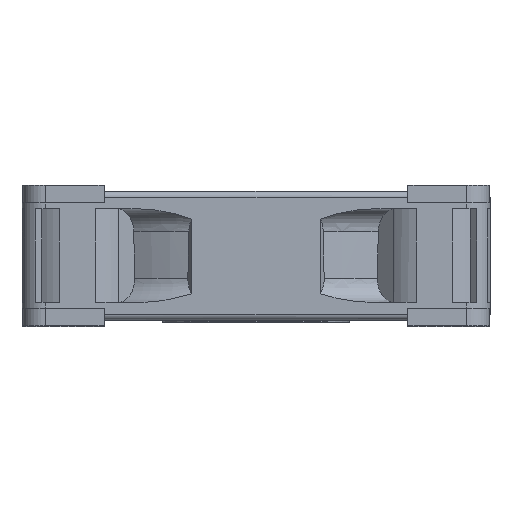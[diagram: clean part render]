
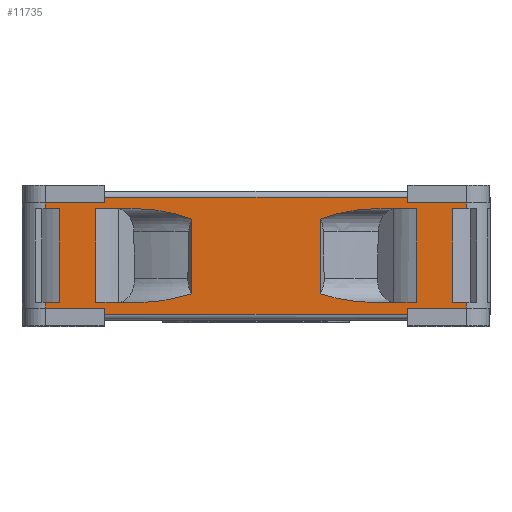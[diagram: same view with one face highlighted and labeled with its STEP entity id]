
A CAD part, top view. The second image highlights one B-rep face of the part: STEP entity #11735.
In plain terms, the highlighted planar face has unit normal (0, 0, 1).
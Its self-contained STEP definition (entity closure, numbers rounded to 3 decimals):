
#1101=LINE('',#20492,#1887);
#1107=LINE('',#20519,#1893);
#1110=LINE('',#20529,#1896);
#1112=LINE('',#20535,#1898);
#1118=LINE('',#20565,#1904);
#1124=LINE('',#20592,#1910);
#1125=LINE('',#20597,#1911);
#1127=LINE('',#20602,#1913);
#1141=LINE('',#20683,#1927);
#1143=LINE('',#20694,#1929);
#1145=LINE('',#20699,#1931);
#1207=LINE('',#21023,#1993);
#1208=LINE('',#21033,#1994);
#1211=LINE('',#21039,#1997);
#1283=LINE('',#21820,#2069);
#1288=LINE('',#21993,#2074);
#1301=LINE('',#22116,#2087);
#1302=LINE('',#22118,#2088);
#1304=LINE('',#22128,#2090);
#1305=LINE('',#22130,#2091);
#1308=LINE('',#22146,#2094);
#1310=LINE('',#22154,#2096);
#1312=LINE('',#22162,#2098);
#1313=LINE('',#22164,#2099);
#1314=LINE('',#22165,#2100);
#1315=LINE('',#22166,#2101);
#1316=LINE('',#22168,#2102);
#1317=LINE('',#22169,#2103);
#1887=VECTOR('',#14894,1000.);
#1893=VECTOR('',#14918,1000.);
#1896=VECTOR('',#14927,1000.);
#1898=VECTOR('',#14933,1000.);
#1904=VECTOR('',#14959,1000.);
#1910=VECTOR('',#14983,1000.);
#1911=VECTOR('',#14988,1000.);
#1913=VECTOR('',#14994,1000.);
#1927=VECTOR('',#15064,1000.);
#1929=VECTOR('',#15068,1000.);
#1931=VECTOR('',#15074,1000.);
#1993=VECTOR('',#15304,1000.);
#1994=VECTOR('',#15307,1000.);
#1997=VECTOR('',#15314,1000.);
#2069=VECTOR('',#15660,1000.);
#2074=VECTOR('',#15699,1000.);
#2087=VECTOR('',#15774,1000.);
#2088=VECTOR('',#15777,1000.);
#2090=VECTOR('',#15789,1000.);
#2091=VECTOR('',#15792,1000.);
#2094=VECTOR('',#15815,1000.);
#2096=VECTOR('',#15825,1000.);
#2098=VECTOR('',#15835,1000.);
#2099=VECTOR('',#15836,1000.);
#2100=VECTOR('',#15837,1000.);
#2101=VECTOR('',#15838,1000.);
#2102=VECTOR('',#15839,1000.);
#2103=VECTOR('',#15840,1000.);
#4244=ORIENTED_EDGE('',*,*,#7147,.T.);
#4245=ORIENTED_EDGE('',*,*,#7128,.T.);
#4246=ORIENTED_EDGE('',*,*,#7063,.T.);
#4247=ORIENTED_EDGE('',*,*,#7110,.T.);
#4248=ORIENTED_EDGE('',*,*,#7162,.T.);
#4249=ORIENTED_EDGE('',*,*,#7163,.T.);
#4250=ORIENTED_EDGE('',*,*,#7164,.T.);
#4251=ORIENTED_EDGE('',*,*,#7084,.T.);
#4252=ORIENTED_EDGE('',*,*,#7101,.T.);
#4253=ORIENTED_EDGE('',*,*,#7100,.T.);
#4254=ORIENTED_EDGE('',*,*,#7146,.T.);
#4255=ORIENTED_EDGE('',*,*,#7158,.F.);
#4256=ORIENTED_EDGE('',*,*,#6864,.T.);
#4257=ORIENTED_EDGE('',*,*,#6673,.F.);
#4258=ORIENTED_EDGE('',*,*,#6689,.F.);
#4259=ORIENTED_EDGE('',*,*,#7140,.T.);
#4260=ORIENTED_EDGE('',*,*,#7165,.F.);
#4261=ORIENTED_EDGE('',*,*,#7166,.T.);
#4262=ORIENTED_EDGE('',*,*,#6686,.F.);
#4263=ORIENTED_EDGE('',*,*,#6692,.T.);
#4264=ORIENTED_EDGE('',*,*,#6727,.T.);
#4265=ORIENTED_EDGE('',*,*,#6730,.F.);
#4266=ORIENTED_EDGE('',*,*,#6733,.F.);
#4267=ORIENTED_EDGE('',*,*,#6659,.F.);
#4268=ORIENTED_EDGE('',*,*,#6650,.T.);
#4269=ORIENTED_EDGE('',*,*,#7167,.T.);
#4270=ORIENTED_EDGE('',*,*,#7154,.T.);
#4271=ORIENTED_EDGE('',*,*,#7141,.T.);
#4272=ORIENTED_EDGE('',*,*,#6656,.T.);
#4273=ORIENTED_EDGE('',*,*,#6637,.T.);
#4274=ORIENTED_EDGE('',*,*,#6858,.F.);
#4275=ORIENTED_EDGE('',*,*,#6860,.F.);
#6637=EDGE_CURVE('',#8341,#8340,#1101,.T.);
#6650=EDGE_CURVE('',#8353,#8352,#1107,.T.);
#6656=EDGE_CURVE('',#8357,#8341,#1110,.T.);
#6659=EDGE_CURVE('',#8353,#8359,#1112,.T.);
#6673=EDGE_CURVE('',#8372,#8373,#1118,.T.);
#6686=EDGE_CURVE('',#8384,#8385,#1124,.T.);
#6689=EDGE_CURVE('',#8386,#8372,#1125,.T.);
#6692=EDGE_CURVE('',#8384,#8388,#1127,.T.);
#6727=EDGE_CURVE('',#8388,#8412,#1141,.T.);
#6730=EDGE_CURVE('',#8414,#8412,#1143,.T.);
#6733=EDGE_CURVE('',#8359,#8414,#1145,.T.);
#6858=EDGE_CURVE('',#8500,#8340,#1207,.T.);
#6860=EDGE_CURVE('',#8502,#8500,#1208,.T.);
#6864=EDGE_CURVE('',#8502,#8373,#1211,.T.);
#7063=EDGE_CURVE('',#8616,#8617,#1283,.T.);
#7084=EDGE_CURVE('',#8636,#8634,#9472,.T.);
#7100=EDGE_CURVE('',#8645,#8647,#9480,.T.);
#7101=EDGE_CURVE('',#8634,#8645,#1288,.T.);
#7110=EDGE_CURVE('',#8617,#8651,#9484,.T.);
#7128=EDGE_CURVE('',#8661,#8616,#9490,.T.);
#7140=EDGE_CURVE('',#8386,#8666,#1301,.T.);
#7141=EDGE_CURVE('',#8667,#8357,#1302,.T.);
#7146=EDGE_CURVE('',#8647,#8669,#1304,.T.);
#7147=EDGE_CURVE('',#8670,#8661,#1305,.T.);
#7154=EDGE_CURVE('',#8673,#8667,#1308,.T.);
#7158=EDGE_CURVE('',#8675,#8669,#1310,.T.);
#7162=EDGE_CURVE('',#8651,#8677,#1312,.T.);
#7163=EDGE_CURVE('',#8677,#8670,#1313,.T.);
#7164=EDGE_CURVE('',#8675,#8636,#1314,.T.);
#7165=EDGE_CURVE('',#8678,#8666,#1315,.T.);
#7166=EDGE_CURVE('',#8678,#8385,#1316,.T.);
#7167=EDGE_CURVE('',#8352,#8673,#1317,.T.);
#8340=VERTEX_POINT('',#20491);
#8341=VERTEX_POINT('',#20493);
#8352=VERTEX_POINT('',#20518);
#8353=VERTEX_POINT('',#20520);
#8357=VERTEX_POINT('',#20530);
#8359=VERTEX_POINT('',#20536);
#8372=VERTEX_POINT('',#20564);
#8373=VERTEX_POINT('',#20566);
#8384=VERTEX_POINT('',#20591);
#8385=VERTEX_POINT('',#20593);
#8386=VERTEX_POINT('',#20596);
#8388=VERTEX_POINT('',#20603);
#8412=VERTEX_POINT('',#20682);
#8414=VERTEX_POINT('',#20693);
#8500=VERTEX_POINT('',#21022);
#8502=VERTEX_POINT('',#21032);
#8616=VERTEX_POINT('',#21821);
#8617=VERTEX_POINT('',#21822);
#8634=VERTEX_POINT('',#21920);
#8636=VERTEX_POINT('',#21926);
#8645=VERTEX_POINT('',#21976);
#8647=VERTEX_POINT('',#21984);
#8651=VERTEX_POINT('',#22023);
#8661=VERTEX_POINT('',#22085);
#8666=VERTEX_POINT('',#22115);
#8667=VERTEX_POINT('',#22119);
#8669=VERTEX_POINT('',#22127);
#8670=VERTEX_POINT('',#22131);
#8673=VERTEX_POINT('',#22147);
#8675=VERTEX_POINT('',#22155);
#8677=VERTEX_POINT('',#22163);
#8678=VERTEX_POINT('',#22167);
#9472=B_SPLINE_CURVE_WITH_KNOTS('',3,(#21922,#21923,#21924,#21925),
 .UNSPECIFIED.,.F.,.F.,(4,4),(0.,1.),.UNSPECIFIED.);
#9480=B_SPLINE_CURVE_WITH_KNOTS('',3,(#21985,#21986,#21987,#21988,#21989,
#21990,#21991),.UNSPECIFIED.,.F.,.F.,(4,1,1,1,4),(0.,0.25,0.5,0.75,1.),
 .UNSPECIFIED.);
#9484=B_SPLINE_CURVE_WITH_KNOTS('',3,(#22024,#22025,#22026,#22027),
 .UNSPECIFIED.,.F.,.F.,(4,4),(0.,1.),.UNSPECIFIED.);
#9490=B_SPLINE_CURVE_WITH_KNOTS('',3,(#22078,#22079,#22080,#22081,#22082,
#22083,#22084),.UNSPECIFIED.,.F.,.F.,(4,1,1,1,4),(0.,0.25,0.5,0.75,1.),
 .UNSPECIFIED.);
#10103=EDGE_LOOP('',(#4244,#4245,#4246,#4247,#4248,#4249));
#10104=EDGE_LOOP('',(#4250,#4251,#4252,#4253,#4254,#4255));
#10105=EDGE_LOOP('',(#4256,#4257,#4258,#4259,#4260,#4261,#4262,#4263,#4264,
#4265,#4266,#4267,#4268,#4269,#4270,#4271,#4272,#4273,#4274,#4275));
#10807=FACE_BOUND('',#10103,.T.);
#10808=FACE_BOUND('',#10104,.T.);
#10809=FACE_BOUND('',#10105,.T.);
#11298=PLANE('',#13809);
#11735=ADVANCED_FACE('',(#10807,#10808,#10809),#11298,.F.);
#13809=AXIS2_PLACEMENT_3D('',#22161,#15833,#15834);
#14894=DIRECTION('',(-1.,0.,0.));
#14918=DIRECTION('',(0.,1.,0.));
#14927=DIRECTION('',(0.,1.,0.));
#14933=DIRECTION('',(-1.,0.,0.));
#14959=DIRECTION('',(1.,0.,0.));
#14983=DIRECTION('',(0.,1.,0.));
#14988=DIRECTION('',(0.,1.,0.));
#14994=DIRECTION('',(1.,0.,0.));
#15064=DIRECTION('',(0.,-1.,0.));
#15068=DIRECTION('',(-1.,0.,0.));
#15074=DIRECTION('',(0.,-1.,0.));
#15304=DIRECTION('',(0.,-1.,0.));
#15307=DIRECTION('',(1.,0.,0.));
#15314=DIRECTION('',(0.,-1.,0.));
#15660=DIRECTION('',(0.,-1.,0.));
#15699=DIRECTION('',(0.,1.,0.));
#15774=DIRECTION('',(1.,0.,0.));
#15777=DIRECTION('',(1.,0.,0.));
#15789=DIRECTION('',(1.,0.,0.));
#15792=DIRECTION('',(1.,0.,0.));
#15815=DIRECTION('',(0.,1.,0.));
#15825=DIRECTION('',(0.,1.,0.));
#15833=DIRECTION('',(0.,0.,-1.));
#15834=DIRECTION('',(-1.,0.,0.));
#15835=DIRECTION('',(-1.,0.,0.));
#15836=DIRECTION('',(0.,1.,0.));
#15837=DIRECTION('',(-1.,0.,0.));
#15838=DIRECTION('',(0.,1.,0.));
#15839=DIRECTION('',(-1.,0.,0.));
#15840=DIRECTION('',(-1.,0.,0.));
#20491=CARTESIAN_POINT('',(12.941,10.,20.));
#20492=CARTESIAN_POINT('',(18.,10.,20.));
#20493=CARTESIAN_POINT('',(18.,10.,20.));
#20518=CARTESIAN_POINT('',(18.,1.5,20.));
#20519=CARTESIAN_POINT('',(18.,1.,20.));
#20520=CARTESIAN_POINT('',(18.,1.,20.));
#20529=CARTESIAN_POINT('',(18.,9.5,20.));
#20530=CARTESIAN_POINT('',(18.,9.5,20.));
#20535=CARTESIAN_POINT('',(18.,1.,20.));
#20536=CARTESIAN_POINT('',(12.941,1.,20.));
#20564=CARTESIAN_POINT('',(-18.,10.,20.));
#20565=CARTESIAN_POINT('',(-18.,10.,20.));
#20566=CARTESIAN_POINT('',(-12.941,10.,20.));
#20591=CARTESIAN_POINT('',(-18.,1.,20.));
#20592=CARTESIAN_POINT('',(-18.,1.,20.));
#20593=CARTESIAN_POINT('',(-18.,1.5,20.));
#20596=CARTESIAN_POINT('',(-18.,9.5,20.));
#20597=CARTESIAN_POINT('',(-18.,9.5,20.));
#20602=CARTESIAN_POINT('',(-18.,1.,20.));
#20603=CARTESIAN_POINT('',(-12.941,1.,20.));
#20682=CARTESIAN_POINT('',(-12.941,0.5,20.));
#20683=CARTESIAN_POINT('',(-12.941,1.,20.));
#20693=CARTESIAN_POINT('',(12.941,0.5,20.));
#20694=CARTESIAN_POINT('',(12.941,0.5,20.));
#20699=CARTESIAN_POINT('',(12.941,1.,20.));
#21022=CARTESIAN_POINT('',(12.941,10.5,20.));
#21023=CARTESIAN_POINT('',(12.941,10.5,20.));
#21032=CARTESIAN_POINT('',(-12.941,10.5,20.));
#21033=CARTESIAN_POINT('',(-12.941,10.5,20.));
#21039=CARTESIAN_POINT('',(-12.941,10.5,20.));
#21820=CARTESIAN_POINT('',(-5.5,8.623,20.));
#21821=CARTESIAN_POINT('',(-5.5,8.623,20.));
#21822=CARTESIAN_POINT('',(-5.5,2.236,20.));
#21920=CARTESIAN_POINT('',(5.5,2.236,20.));
#21922=CARTESIAN_POINT('',(9.847,1.5,20.));
#21923=CARTESIAN_POINT('',(8.484,1.5,20.));
#21924=CARTESIAN_POINT('',(6.867,1.792,20.));
#21925=CARTESIAN_POINT('',(5.5,2.236,20.));
#21926=CARTESIAN_POINT('',(9.847,1.5,20.));
#21976=CARTESIAN_POINT('',(5.5,8.623,20.));
#21984=CARTESIAN_POINT('',(10.082,9.5,20.));
#21985=CARTESIAN_POINT('',(5.5,8.623,20.));
#21986=CARTESIAN_POINT('',(5.835,8.754,20.));
#21987=CARTESIAN_POINT('',(6.584,9.001,20.));
#21988=CARTESIAN_POINT('',(7.744,9.277,20.));
#21989=CARTESIAN_POINT('',(8.968,9.462,20.));
#21990=CARTESIAN_POINT('',(9.716,9.5,20.));
#21991=CARTESIAN_POINT('',(10.082,9.5,20.));
#21993=CARTESIAN_POINT('',(5.5,2.236,20.));
#22023=CARTESIAN_POINT('',(-9.847,1.5,20.));
#22024=CARTESIAN_POINT('',(-5.5,2.236,20.));
#22025=CARTESIAN_POINT('',(-6.87,1.791,20.));
#22026=CARTESIAN_POINT('',(-8.48,1.5,20.));
#22027=CARTESIAN_POINT('',(-9.847,1.5,20.));
#22078=CARTESIAN_POINT('',(-10.082,9.5,20.));
#22079=CARTESIAN_POINT('',(-9.716,9.5,20.));
#22080=CARTESIAN_POINT('',(-8.968,9.462,20.));
#22081=CARTESIAN_POINT('',(-7.745,9.277,20.));
#22082=CARTESIAN_POINT('',(-6.583,9.001,20.));
#22083=CARTESIAN_POINT('',(-5.837,8.755,20.));
#22084=CARTESIAN_POINT('',(-5.5,8.623,20.));
#22085=CARTESIAN_POINT('',(-10.082,9.5,20.));
#22115=CARTESIAN_POINT('',(-16.802,9.5,20.));
#22116=CARTESIAN_POINT('',(-18.,9.5,20.));
#22118=CARTESIAN_POINT('',(16.802,9.5,20.));
#22119=CARTESIAN_POINT('',(16.802,9.5,20.));
#22127=CARTESIAN_POINT('',(13.693,9.5,20.));
#22128=CARTESIAN_POINT('',(10.082,9.5,20.));
#22130=CARTESIAN_POINT('',(-13.693,9.5,20.));
#22131=CARTESIAN_POINT('',(-13.693,9.5,20.));
#22146=CARTESIAN_POINT('',(16.802,1.5,20.));
#22147=CARTESIAN_POINT('',(16.802,1.5,20.));
#22154=CARTESIAN_POINT('',(13.693,1.5,20.));
#22155=CARTESIAN_POINT('',(13.693,1.5,20.));
#22161=CARTESIAN_POINT('',(20.,11.,20.));
#22162=CARTESIAN_POINT('',(-9.847,1.5,20.));
#22163=CARTESIAN_POINT('',(-13.693,1.5,20.));
#22164=CARTESIAN_POINT('',(-13.693,1.5,20.));
#22165=CARTESIAN_POINT('',(13.693,1.5,20.));
#22166=CARTESIAN_POINT('',(-16.802,1.5,20.));
#22167=CARTESIAN_POINT('',(-16.802,1.5,20.));
#22168=CARTESIAN_POINT('',(-16.802,1.5,20.));
#22169=CARTESIAN_POINT('',(18.,1.5,20.));
